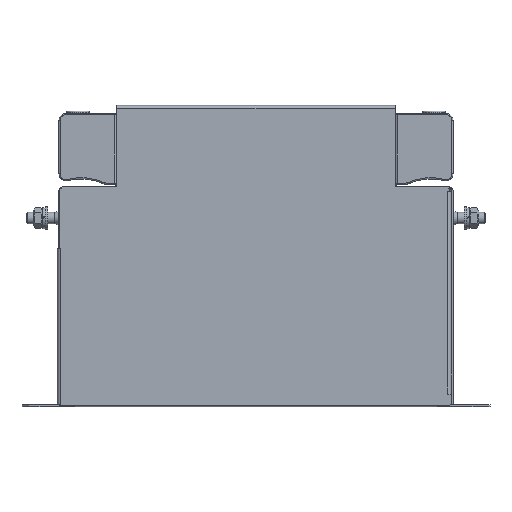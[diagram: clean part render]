
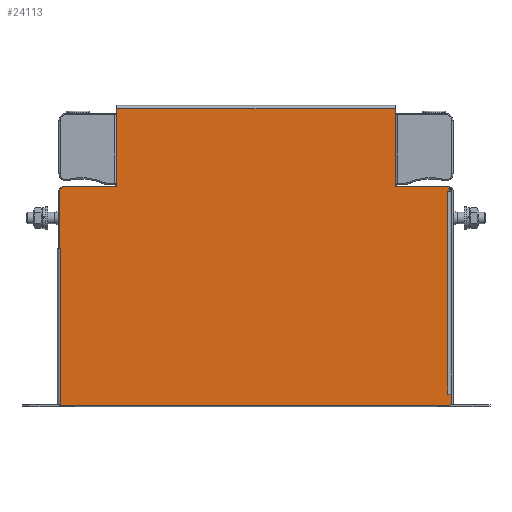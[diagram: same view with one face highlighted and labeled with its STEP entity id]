
A CAD part, top view. The second image highlights one B-rep face of the part: STEP entity #24113.
In plain terms, the highlighted planar face has unit normal (0, 0, 1).
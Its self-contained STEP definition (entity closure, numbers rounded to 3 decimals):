
#2794=FACE_OUTER_BOUND('',#4308,.T.);
#4308=EDGE_LOOP('',(#20239,#20240,#20241,#20242,#20243,#20244,#20245,#20246,
#20247,#20248,#20249,#20250,#20251,#20252,#20253,#20254,#20255,#20256,#20257,
#20258,#20259,#20260,#20261,#20262,#20263,#20264,#20265));
#6517=LINE('',#39693,#8829);
#6522=LINE('',#39701,#8834);
#6524=LINE('',#39705,#8836);
#6527=LINE('',#39711,#8839);
#6529=LINE('',#39715,#8841);
#6538=LINE('',#39739,#8850);
#6539=LINE('',#39743,#8851);
#6545=LINE('',#39754,#8857);
#6546=LINE('',#39757,#8858);
#6549=LINE('',#39764,#8861);
#6553=LINE('',#39772,#8865);
#6557=LINE('',#39779,#8869);
#6568=LINE('',#39810,#8880);
#6571=LINE('',#39818,#8883);
#6572=LINE('',#39822,#8884);
#6578=LINE('',#39833,#8890);
#6579=LINE('',#39835,#8891);
#6581=LINE('',#39840,#8893);
#6585=LINE('',#39848,#8897);
#6589=LINE('',#39856,#8901);
#6598=LINE('',#39878,#8910);
#6601=LINE('',#39883,#8913);
#6602=LINE('',#39885,#8914);
#6604=LINE('',#39890,#8916);
#6606=LINE('',#39893,#8918);
#6628=LINE('',#39933,#8940);
#6630=LINE('',#39936,#8942);
#8829=VECTOR('',#32391,10.);
#8834=VECTOR('',#32398,10.);
#8836=VECTOR('',#32402,10.);
#8839=VECTOR('',#32407,10.);
#8841=VECTOR('',#32411,10.);
#8850=VECTOR('',#32438,10.);
#8851=VECTOR('',#32441,10.);
#8857=VECTOR('',#32449,10.);
#8858=VECTOR('',#32452,10.);
#8861=VECTOR('',#32457,10.);
#8865=VECTOR('',#32463,10.);
#8869=VECTOR('',#32469,10.);
#8880=VECTOR('',#32508,10.);
#8883=VECTOR('',#32517,10.);
#8884=VECTOR('',#32520,10.);
#8890=VECTOR('',#32528,10.);
#8891=VECTOR('',#32531,10.);
#8893=VECTOR('',#32535,10.);
#8897=VECTOR('',#32541,10.);
#8901=VECTOR('',#32547,10.);
#8910=VECTOR('',#32574,10.);
#8913=VECTOR('',#32579,10.);
#8914=VECTOR('',#32582,10.);
#8916=VECTOR('',#32586,10.);
#8918=VECTOR('',#32590,10.);
#8940=VECTOR('',#32630,10.);
#8942=VECTOR('',#32634,10.);
#10858=VERTEX_POINT('',#39690);
#10859=VERTEX_POINT('',#39692);
#10860=VERTEX_POINT('',#39697);
#10861=VERTEX_POINT('',#39699);
#10862=VERTEX_POINT('',#39703);
#10863=VERTEX_POINT('',#39707);
#10864=VERTEX_POINT('',#39709);
#10865=VERTEX_POINT('',#39713);
#10872=VERTEX_POINT('',#39741);
#10873=VERTEX_POINT('',#39742);
#10877=VERTEX_POINT('',#39751);
#10878=VERTEX_POINT('',#39756);
#10880=VERTEX_POINT('',#39762);
#10881=VERTEX_POINT('',#39763);
#10884=VERTEX_POINT('',#39771);
#10886=VERTEX_POINT('',#39777);
#10893=VERTEX_POINT('',#39814);
#10895=VERTEX_POINT('',#39820);
#10896=VERTEX_POINT('',#39821);
#10900=VERTEX_POINT('',#39830);
#10901=VERTEX_POINT('',#39838);
#10902=VERTEX_POINT('',#39839);
#10905=VERTEX_POINT('',#39847);
#10908=VERTEX_POINT('',#39854);
#10913=VERTEX_POINT('',#39880);
#10914=VERTEX_POINT('',#39887);
#10924=VERTEX_POINT('',#39931);
#13934=EDGE_CURVE('',#10858,#10859,#6517,.T.);
#13939=EDGE_CURVE('',#10860,#10861,#6522,.T.);
#13941=EDGE_CURVE('',#10861,#10862,#6524,.T.);
#13944=EDGE_CURVE('',#10863,#10864,#6527,.T.);
#13946=EDGE_CURVE('',#10864,#10865,#6529,.T.);
#13959=EDGE_CURVE('',#10865,#10860,#6538,.T.);
#13960=EDGE_CURVE('',#10872,#10873,#6539,.T.);
#13966=EDGE_CURVE('',#10877,#10872,#6545,.T.);
#13967=EDGE_CURVE('',#10873,#10878,#6546,.T.);
#13970=EDGE_CURVE('',#10880,#10881,#6549,.T.);
#13974=EDGE_CURVE('',#10884,#10880,#6553,.T.);
#13978=EDGE_CURVE('',#10881,#10886,#6557,.T.);
#13995=EDGE_CURVE('',#10886,#10877,#6568,.T.);
#13998=EDGE_CURVE('',#10859,#10893,#6571,.T.);
#13999=EDGE_CURVE('',#10895,#10896,#6572,.T.);
#14005=EDGE_CURVE('',#10900,#10895,#6578,.T.);
#14006=EDGE_CURVE('',#10896,#10893,#6579,.T.);
#14008=EDGE_CURVE('',#10901,#10902,#6581,.T.);
#14012=EDGE_CURVE('',#10905,#10901,#6585,.T.);
#14016=EDGE_CURVE('',#10902,#10908,#6589,.T.);
#14029=EDGE_CURVE('',#10908,#10900,#6598,.T.);
#14032=EDGE_CURVE('',#10905,#10913,#6601,.T.);
#14033=EDGE_CURVE('',#10913,#10862,#6602,.T.);
#14035=EDGE_CURVE('',#10914,#10878,#6604,.T.);
#14037=EDGE_CURVE('',#10863,#10914,#6606,.T.);
#14059=EDGE_CURVE('',#10884,#10924,#6628,.T.);
#14061=EDGE_CURVE('',#10924,#10858,#6630,.T.);
#20239=ORIENTED_EDGE('',*,*,#14061,.F.);
#20240=ORIENTED_EDGE('',*,*,#14059,.F.);
#20241=ORIENTED_EDGE('',*,*,#13974,.T.);
#20242=ORIENTED_EDGE('',*,*,#13970,.T.);
#20243=ORIENTED_EDGE('',*,*,#13978,.T.);
#20244=ORIENTED_EDGE('',*,*,#13995,.T.);
#20245=ORIENTED_EDGE('',*,*,#13966,.T.);
#20246=ORIENTED_EDGE('',*,*,#13960,.T.);
#20247=ORIENTED_EDGE('',*,*,#13967,.T.);
#20248=ORIENTED_EDGE('',*,*,#14035,.F.);
#20249=ORIENTED_EDGE('',*,*,#14037,.F.);
#20250=ORIENTED_EDGE('',*,*,#13944,.T.);
#20251=ORIENTED_EDGE('',*,*,#13946,.T.);
#20252=ORIENTED_EDGE('',*,*,#13959,.T.);
#20253=ORIENTED_EDGE('',*,*,#13939,.T.);
#20254=ORIENTED_EDGE('',*,*,#13941,.T.);
#20255=ORIENTED_EDGE('',*,*,#14033,.F.);
#20256=ORIENTED_EDGE('',*,*,#14032,.F.);
#20257=ORIENTED_EDGE('',*,*,#14012,.T.);
#20258=ORIENTED_EDGE('',*,*,#14008,.T.);
#20259=ORIENTED_EDGE('',*,*,#14016,.T.);
#20260=ORIENTED_EDGE('',*,*,#14029,.T.);
#20261=ORIENTED_EDGE('',*,*,#14005,.T.);
#20262=ORIENTED_EDGE('',*,*,#13999,.T.);
#20263=ORIENTED_EDGE('',*,*,#14006,.T.);
#20264=ORIENTED_EDGE('',*,*,#13998,.F.);
#20265=ORIENTED_EDGE('',*,*,#13934,.F.);
#21412=PLANE('',#26261);
#24113=ADVANCED_FACE('',(#2794),#21412,.T.);
#26261=AXIS2_PLACEMENT_3D('',#39939,#32639,#32640);
#32391=DIRECTION('',(-1.,0.,0.));
#32398=DIRECTION('',(0.,-1.,0.));
#32402=DIRECTION('',(-1.,0.,0.));
#32407=DIRECTION('',(-1.,0.,0.));
#32411=DIRECTION('',(0.,1.,0.));
#32438=DIRECTION('',(-1.,0.,0.));
#32441=DIRECTION('',(0.,1.,0.));
#32449=DIRECTION('',(-1.,0.,0.));
#32452=DIRECTION('',(1.,0.,0.));
#32457=DIRECTION('',(0.,1.,0.));
#32463=DIRECTION('',(-1.,0.,0.));
#32469=DIRECTION('',(1.,0.,0.));
#32508=DIRECTION('',(0.,1.,0.));
#32517=DIRECTION('',(0.,1.,0.));
#32520=DIRECTION('',(0.,-1.,0.));
#32528=DIRECTION('',(1.,0.,0.));
#32531=DIRECTION('',(-1.,0.,0.));
#32535=DIRECTION('',(0.,-1.,0.));
#32541=DIRECTION('',(1.,0.,0.));
#32547=DIRECTION('',(-1.,0.,0.));
#32574=DIRECTION('',(0.,-1.,0.));
#32579=DIRECTION('',(0.,1.,0.));
#32582=DIRECTION('',(0.707,0.707,0.));
#32586=DIRECTION('',(0.,-1.,0.));
#32590=DIRECTION('',(0.707,-0.707,0.));
#32630=DIRECTION('',(0.,-1.,0.));
#32634=DIRECTION('',(-0.707,-0.707,0.));
#32639=DIRECTION('center_axis',(0.,0.,
1.));
#32640=DIRECTION('ref_axis',(1.,0.,0.));
#39690=CARTESIAN_POINT('',(84.6,0.5,22.45));
#39692=CARTESIAN_POINT('',(-85.9,0.5,22.45));
#39693=CARTESIAN_POINT('',(-84.8,0.5,22.45));
#39697=CARTESIAN_POINT('',(-60.9,130.4,22.45));
#39699=CARTESIAN_POINT('',(-60.9,96.2,22.45));
#39701=CARTESIAN_POINT('',(-60.9,99.05,22.45));
#39703=CARTESIAN_POINT('',(-84.9,96.2,22.45));
#39705=CARTESIAN_POINT('',(-30.45,96.2,22.45));
#39707=CARTESIAN_POINT('',(83.8,96.2,22.45));
#39709=CARTESIAN_POINT('',(60.9,96.2,22.45));
#39711=CARTESIAN_POINT('',(42.4,96.2,22.45));
#39713=CARTESIAN_POINT('',(60.9,130.4,22.45));
#39715=CARTESIAN_POINT('',(60.9,81.2,22.45));
#39739=CARTESIAN_POINT('',(30.45,130.4,22.45));
#39741=CARTESIAN_POINT('',(83.99,94.2,22.45));
#39742=CARTESIAN_POINT('',(83.99,94.21,22.45));
#39743=CARTESIAN_POINT('',(83.99,80.2,22.45));
#39751=CARTESIAN_POINT('',(84.,94.2,22.45));
#39754=CARTESIAN_POINT('',(42.4,94.2,22.45));
#39756=CARTESIAN_POINT('',(84.8,94.21,22.45));
#39757=CARTESIAN_POINT('',(41.995,94.21,22.45));
#39762=CARTESIAN_POINT('',(83.99,5.49,22.45));
#39763=CARTESIAN_POINT('',(83.99,5.5,22.45));
#39764=CARTESIAN_POINT('',(83.99,35.845,22.45));
#39771=CARTESIAN_POINT('',(85.6,5.49,22.45));
#39772=CARTESIAN_POINT('',(42.4,5.49,22.45));
#39777=CARTESIAN_POINT('',(84.,5.5,22.45));
#39779=CARTESIAN_POINT('',(41.995,5.5,22.45));
#39810=CARTESIAN_POINT('',(84.,35.85,22.45));
#39814=CARTESIAN_POINT('',(-85.9,0.99,22.45));
#39818=CARTESIAN_POINT('',(-85.9,33.35,22.45));
#39820=CARTESIAN_POINT('',(-85.49,1.,22.45));
#39821=CARTESIAN_POINT('',(-85.49,0.99,22.45));
#39822=CARTESIAN_POINT('',(-85.49,33.6,22.45));
#39830=CARTESIAN_POINT('',(-85.5,1.,22.45));
#39833=CARTESIAN_POINT('',(-43.15,1.,22.45));
#39835=CARTESIAN_POINT('',(-42.745,0.99,22.45));
#39838=CARTESIAN_POINT('',(-85.49,69.41,22.45));
#39839=CARTESIAN_POINT('',(-85.49,69.4,22.45));
#39840=CARTESIAN_POINT('',(-85.49,67.805,22.45));
#39847=CARTESIAN_POINT('',(-85.9,69.41,22.45));
#39848=CARTESIAN_POINT('',(-43.15,69.41,22.45));
#39854=CARTESIAN_POINT('',(-85.5,69.4,22.45));
#39856=CARTESIAN_POINT('',(-42.745,69.4,22.45));
#39878=CARTESIAN_POINT('',(-85.5,67.8,22.45));
#39880=CARTESIAN_POINT('',(-85.9,95.2,22.45));
#39883=CARTESIAN_POINT('',(-85.9,33.35,22.45));
#39885=CARTESIAN_POINT('',(-71.425,109.675,22.45));
#39887=CARTESIAN_POINT('',(84.8,95.2,22.45));
#39890=CARTESIAN_POINT('',(84.8,0.5,22.45));
#39893=CARTESIAN_POINT('',(70.6,109.4,22.45));
#39931=CARTESIAN_POINT('',(85.6,1.5,22.45));
#39933=CARTESIAN_POINT('',(85.6,5.49,22.45));
#39936=CARTESIAN_POINT('',(80.125,-3.975,22.45));
#39939=CARTESIAN_POINT('Origin',(0.,66.2,22.45));
